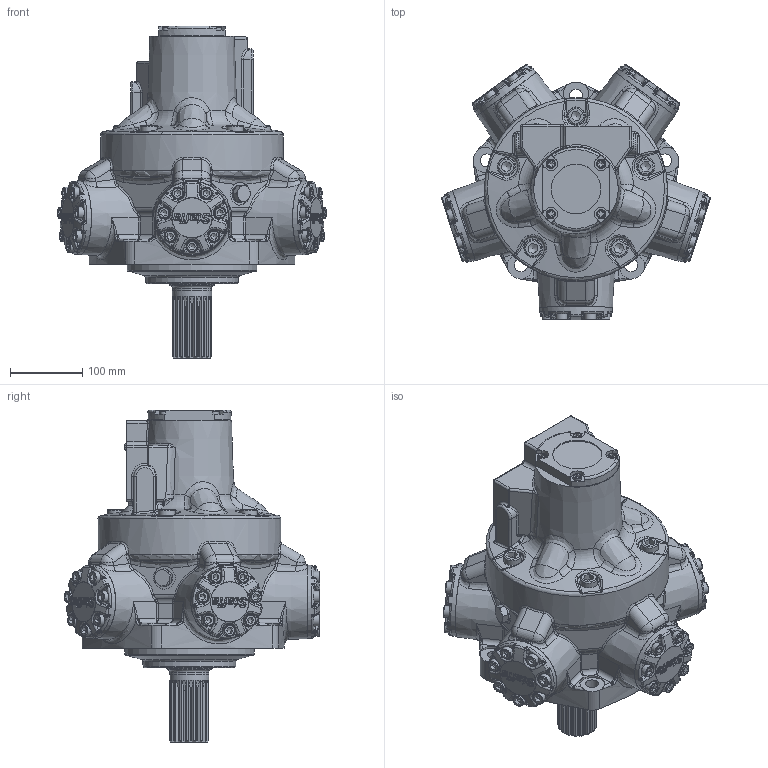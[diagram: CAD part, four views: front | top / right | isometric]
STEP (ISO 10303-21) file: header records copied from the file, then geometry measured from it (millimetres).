
FILE_DESCRIPTION(/* description */ (''),/* implementation_level */ '2;1');
FILE_NAME(/* name */ 'HMB030_Z_FM3_50.stp',/* time_stamp */ '2025-12-15T11:47:21Z',/* author */ ('ccallanga'),/* organization */ (''),/* preprocessor_version */ 'ST-DEVELOPER v20',/* originating_system */ 'Autodesk Inventor 2024',/* authorisation */ '');
FILE_SCHEMA (('AUTOMOTIVE_DESIGN { 1 0 10303 214 3 1 1 }'));
Products named in the file (1): HMB030 Web Assembly_Simplify_1
Bounding box: 373.48 x 355.32 x 460.99 mm (x, y, z)
Volume: 14970976.5 mm3; surface area: 535847.7 mm2
Topology: 1 solids, 1 shells, 4224 faces, 10171 edges, 5980 vertices
Faces by surface type: bspline 1751, plane 983, cylinder 849, torus 343, cone 162, sphere 136
Full cylindrical faces by diameter (mm): 6.2 x1, 8.376 x2, 10.109 x8, 11.328 x1, 11.913 x4, 12.7 x4, 13.614 x1, 16 x40, 16.5 x35, 17 x5, 17.78 x1, 18 x5, 23.8 x2, 23.825 x5, 25.4 x5, 31.75 x5, 54.369 x1, 63.474 x1, 67.564 x1, 68.58 x1, 179.934 x1, 228.613 x1, 254 x1
Entity records: 194518 total; most frequent: CARTESIAN_POINT 104984, ORIENTED_EDGE 20020, DIRECTION 13913, EDGE_CURVE 10010, VERTEX_POINT 5980, AXIS2_PLACEMENT_3D 5498, EDGE_LOOP 4426, STYLED_ITEM 4225
